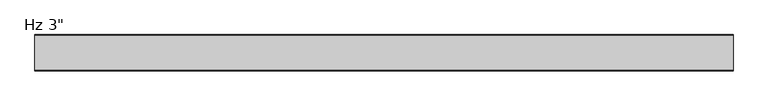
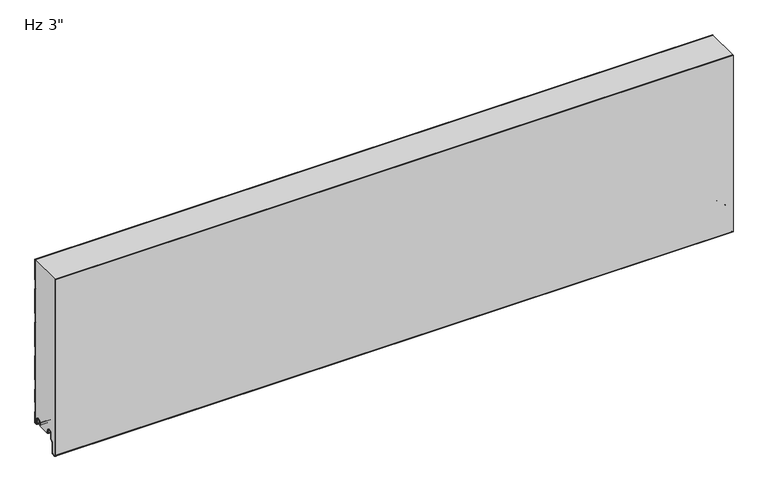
"""IFC4 building model written with IfcOpenShell, lengths in millimetres: plate geometry."""

from ifc_helpers import new_model, si_unit, point, frame, frame_2d, origin, place, context, project, spatial, polyline, circle_curve, trimmed, segment, composite_curve, outline, extrude, source, transform, mapped, element, save
from ifc_brep_helpers import plane_surface, cylinder_surface, revolved_surface, advanced_brep


def plate_a8b72244(model_context):
    return source(origin(), model_context, "Body", "SolidModel", [
        extrude(outline(composite_curve([segment(trimmed(circle_curve(frame_2d((-72.6297607, -32.4521176)), 3.5702393), [point((-72.3184903, -36.008762))], [point((-76.2, -32.4521154))], False, "CARTESIAN"), True, "CONTINUOUS"), segment(polyline([(-76.2, -32.4521154), (-76.1997439, 368.0), (-75.1993606, 368.0), (-75.1993606, -32.509446)]), True, "CONTINUOUS"), segment(trimmed(circle_curve(frame_2d((-72.6297607, -32.4521176)), 2.5702393), [point((-75.1993606, -32.509446))], [point((-72.4056751, -35.0125699))], True, "CARTESIAN"), True, "CONTINUOUS"), segment(polyline([(-72.4056751, -35.0125699), (-67.4238542, -34.5765709)]), True, "CONTINUOUS"), segment(trimmed(circle_curve(frame_2d((-67.9052448, -31.9198392)), 2.6999926), [point((-67.4238542, -34.5765709))], [point((-65.2052522, -31.9198392))], True, "CARTESIAN"), True, "CONTINUOUS"), segment(polyline([(-65.2052522, -31.9198392), (-65.2052522, -9.8247096), (-59.7031811, -4.3226385)]), True, "CONTINUOUS"), segment(trimmed(circle_curve(frame_2d((-60.9052588, -3.1205608)), 1.6999946), [point((-59.7031811, -4.3226385))], [point((-59.2052642, -3.1205608))], True, "CARTESIAN"), True, "CONTINUOUS"), segment(polyline([(-59.2052642, -3.1205608), (-59.2052642, 8.6903283)]), True, "CONTINUOUS"), segment(trimmed(circle_curve(frame_2d((-55.8552689, 8.6903283)), 3.3499953), [point((-59.2052642, 8.6903283))], [point((-55.8552689, 12.0403236))], False, "CARTESIAN"), True, "CONTINUOUS"), segment(polyline([(-55.8552689, 12.0403236), (-51.4552777, 12.0403236)]), True, "CONTINUOUS"), segment(trimmed(circle_curve(frame_2d((-51.4552777, 8.6903283)), 3.3499953), [point((-51.4552777, 12.0403236))], [point((-48.1052824, 8.6903283))], False, "CARTESIAN"), True, "CONTINUOUS"), segment(polyline([(-48.1052824, 8.6903283), (-48.1052824, 5.9912173), (-46.7068035, 5.9912173), (-46.7068035, 2.2328239)]), True, "CONTINUOUS"), segment(trimmed(circle_curve(frame_2d((-47.9068002, 2.2313092)), 1.1999976), [point((-46.7068035, 2.2328239))], [point((-47.8762782, 1.0316999))], False, "CARTESIAN"), True, "CONTINUOUS"), segment(trimmed(circle_curve(frame_2d((-47.9068002, 2.2313092)), 1.1999976), [point((-47.8762782, 1.0316999))], [point((-49.1052824, 2.1710221))], False, "CARTESIAN"), True, "CONTINUOUS"), segment(polyline([(-49.1052824, 2.1710221), (-49.1052824, 8.6903283)]), True, "CONTINUOUS"), segment(trimmed(circle_curve(frame_2d((-51.4552777, 8.6903283)), 2.3499953), [point((-49.1052824, 8.6903283))], [point((-51.4552777, 11.0403236))], True, "CARTESIAN"), True, "CONTINUOUS"), segment(polyline([(-51.4552777, 11.0403236), (-55.8552689, 11.0403236)]), True, "CONTINUOUS"), segment(trimmed(circle_curve(frame_2d((-55.8552689, 8.6903283)), 2.3499953), [point((-55.8552689, 11.0403236))], [point((-58.2052642, 8.6903283))], True, "CARTESIAN"), True, "CONTINUOUS"), segment(polyline([(-58.2052642, 8.6903283), (-58.2052642, -3.1205608)]), True, "CONTINUOUS"), segment(trimmed(circle_curve(frame_2d((-60.9052588, -3.1205608)), 2.6999946), [point((-58.2052642, -3.1205608))], [point((-58.9960743, -5.0297453))], False, "CARTESIAN"), True, "CONTINUOUS"), segment(polyline([(-58.9960743, -5.0297453), (-63.8244918, -9.8581627)]), True, "CONTINUOUS"), segment(trimmed(circle_curve(frame_2d((-62.9052548, -10.7773997)), 1.2999974), [point((-63.8244918, -9.8581627))], [point((-64.2052522, -10.7773997))], True, "CARTESIAN"), True, "CONTINUOUS"), segment(polyline([(-64.2052522, -10.7773997), (-64.2052522, -31.9198392)]), True, "CONTINUOUS"), segment(trimmed(circle_curve(frame_2d((-67.9052448, -31.9198392)), 3.6999926), [point((-64.2052522, -31.9198392))], [point((-67.2944437, -35.5690675))], False, "CARTESIAN"), True, "CONTINUOUS"), segment(polyline([(-67.2944437, -35.5690675), (-72.3184903, -36.008762)]), True, "CONTINUOUS")], self_intersect=False)), frame((-730.0, 0.0, 0.0), z_axis=(1.0, 0.0, 0.0), x_axis=(0.0, 1.0, 0.0)), (0.0, 0.0, 1.0), 1460.0),
        advanced_brep(
        [(-730.0, -17.0015159, 2.0313088), (-730.0, -18.0015191, 1.0313115), (-730.0, -19.0015105, 2.0313088), (-730.0, -19.0015105, 6.0315124), (-730.0, -18.0015159, 6.0315124), (-730.0, -18.0015159, 8.7237222), (-730.0, -14.7015202, 12.0237179), (-730.0, -10.301529, 12.0237179), (-730.0, -7.0015335, 8.7237224), (-730.0, -7.0015335, -1.6962565), (-730.0, -5.2315393, -3.4662507), (-730.0, -0.9999916, -3.4662507), (-730.0, -0.9999916, 21.034026), (-730.0, -2.2002307, 22.4196686), (-730.0, -2.2002307, 41.7948349), (-730.0, -1.0, 43.1804678), (-730.0, -1.0, 71.8338832), (-730.0, -2.2002307, 73.2195162), (-730.0, -2.2002307, 92.5946825), (-730.0, -1.0, 93.9803154), (-730.0, -1.0, 148.0337308), (-730.0, -2.2002307, 149.4193638), (-730.0, -2.2002307, 168.7945301), (-730.0, -1.0, 170.180163), (-730.0, -1.0, 224.2335784), (-730.0, -2.2002307, 225.6192114), (-730.0, -2.2002307, 244.9943777), (-730.0, -1.0, 246.3800106), (-730.0, -1.0, 300.433426), (-730.0, -2.2002307, 301.819059), (-730.0, -2.2002307, 321.1942253), (-730.0, -1.0, 322.5798582), (-730.0, -1.0, 368.0), (-730.0, 0.0, 368.0), (-730.0, 0.0, 322.7290094), (-730.0, -0.3417885, 321.8123925), (-730.0, -1.2002307, 320.8213449), (-730.0, -1.2002307, 302.1919394), (-730.0, -0.3417885, 301.2008918), (-730.0, 0.0, 300.2842749), (-730.0, 0.0, 246.5291618), (-730.0, -0.3417885, 245.6125449), (-730.0, -1.2002307, 244.6214973), (-730.0, -1.2002307, 225.9920918), (-730.0, -0.3417885, 225.0010442), (-730.0, 0.0, 224.0844273), (-730.0, 0.0, 170.3293142), (-730.0, -0.3417885, 169.4126973), (-730.0, -1.2002307, 168.4216497), (-730.0, -1.2002307, 149.7922442), (-730.0, -0.3417885, 148.8011966), (-730.0, 0.0, 147.8845797), (-730.0, 0.0, 94.1294666), (-730.0, -0.3417885, 93.2128497), (-730.0, -1.2002307, 92.2218021), (-730.0, -1.2002307, 73.5923966), (-730.0, -0.3417885, 72.601349), (-730.0, 0.0, 71.6847321), (-730.0, 0.0, 43.329619), (-730.0, -0.3417885, 42.4130021), (-730.0, -1.2002307, 41.4219545), (-730.0, -1.2002307, 22.792549), (-730.0, -0.3417885, 21.8015014), (-730.0, 0.0, 20.8847931), (-730.0, 8.4e-06, -3.0662545), (-730.0, -1.3999878, -4.4662507), (-730.0, -5.2315393, -4.4662507), (-730.0, -8.0015335, -1.6962565), (-730.0, -8.0015335, 8.7237224), (-730.0, -10.301529, 11.0237179), (-730.0, -14.7015202, 11.0237179), (-730.0, -17.0015159, 8.7237222), (730.0, -17.0015159, 2.0313088), (730.0, -17.0015159, 8.7237222), (730.0, -14.7015202, 11.0237179), (730.0, -10.301529, 11.0237179), (730.0, -8.0015335, 8.7237224), (730.0, -8.0015335, -1.6962565), (730.0, -5.2315393, -4.4662507), (730.0, -1.3999878, -4.4662507), (730.0, 8.4e-06, -3.0662545), (730.0, 8.4e-06, 20.8848845), (730.0, -0.3417885, 21.8015014), (730.0, -1.2002307, 22.792549), (730.0, -1.2002307, 41.4219545), (730.0, -0.3417885, 42.4130021), (730.0, 0.0, 43.329619), (730.0, 0.0, 71.6847321), (730.0, -0.3417885, 72.601349), (730.0, -1.2002307, 73.5923966), (730.0, -1.2002307, 92.2218021), (730.0, -0.3417885, 93.2128497), (730.0, 0.0, 94.1294666), (730.0, 0.0, 147.8845797), (730.0, -0.3417885, 148.8011966), (730.0, -1.2002307, 149.7922442), (730.0, -1.2002307, 168.4216497), (730.0, -0.3417885, 169.4126973), (730.0, 0.0, 170.3293142), (730.0, 0.0, 224.0844273), (730.0, -0.3417885, 225.0010442), (730.0, -1.2002307, 225.9920918), (730.0, -1.2002307, 244.6214973), (730.0, -0.3417885, 245.6125449), (730.0, 0.0, 246.5291618), (730.0, 0.0, 300.2842749), (730.0, -0.3417885, 301.2008918), (730.0, -1.2002307, 302.1919394), (730.0, -1.2002307, 320.8213449), (730.0, -0.3417885, 321.8123925), (730.0, 0.0, 322.7290094), (730.0, 0.0, 368.0), (730.0, -1.0, 368.0), (730.0, -1.0, 322.5798582), (730.0, -2.2002307, 321.1942253), (730.0, -2.2002307, 301.819059), (730.0, -1.0, 300.433426), (730.0, -1.0, 246.3800106), (730.0, -2.2002307, 244.9943777), (730.0, -2.2002307, 225.6192114), (730.0, -1.0, 224.2335784), (730.0, -1.0, 170.180163), (730.0, -2.2002307, 168.7945301), (730.0, -2.2002307, 149.4193638), (730.0, -1.0, 148.0337308), (730.0, -1.0, 93.9803154), (730.0, -2.2002307, 92.5946825), (730.0, -2.2002307, 73.2195162), (730.0, -1.0, 71.8338832), (730.0, -1.0, 43.1804678), (730.0, -2.2002307, 41.7948349), (730.0, -2.2002307, 22.4196686), (730.0, -0.9999916, 21.034026), (730.0, -0.9999916, -3.4662507), (730.0, -5.2315393, -3.4662507), (730.0, -7.0015335, -1.6962565), (730.0, -7.0015335, 8.7237224), (730.0, -10.301529, 12.0237179), (730.0, -14.7015202, 12.0237179), (730.0, -18.0015159, 8.7237222), (730.0, -18.0015159, 6.0315124), (730.0, -19.0015105, 6.0315124), (730.0, -19.0015105, 2.0313088), (730.0, -18.0015192, 1.0313116)],
        [
            (0, 1, circle_curve(frame((-730.0, -18.0015132, 2.0313088), z_axis=(-1.0, 0.0, 0.0), x_axis=(0.0, 0.0, 1.0)), 0.9999973)),
            (1, 2, circle_curve(frame((-730.0, -18.0015133, 2.0313088), z_axis=(-1.0, 0.0, 0.0), x_axis=(0.0, 0.0, 1.0)), 0.9999972)),
            (2, 3),
            (3, 4),
            (4, 5),
            (5, 6, circle_curve(frame((-730.0, -14.7015202, 8.7237222), z_axis=(-1.0, 0.0, 0.0), x_axis=(0.0, 0.0, 1.0)), 3.2999957)),
            (6, 7),
            (7, 8, circle_curve(frame((-730.0, -10.301529, 8.7237224), z_axis=(-1.0, 0.0, 0.0), x_axis=(0.0, 0.0, 1.0)), 3.2999955)),
            (8, 9),
            (9, 10, circle_curve(frame((-730.0, -5.2315393, -1.6962565), z_axis=(1.0, 0.0, 0.0), x_axis=(0.0, 0.0, 1.0)), 1.7699942)),
            (10, 11),
            (11, 12),
            (12, 13),
            (13, 14),
            (14, 15),
            (15, 16),
            (16, 17),
            (17, 18),
            (18, 19),
            (19, 20),
            (20, 21),
            (21, 22),
            (22, 23),
            (23, 24),
            (24, 25),
            (25, 26),
            (26, 27),
            (27, 28),
            (28, 29),
            (29, 30),
            (30, 31),
            (31, 32),
            (32, 33),
            (33, 34),
            (34, 35, circle_curve(frame((-730.0, -1.3999972, 322.7290094), z_axis=(-1.0, 0.0, 0.0), x_axis=(0.0, 0.0, 1.0)), 1.3999972)),
            (35, 36),
            (36, 37),
            (37, 38),
            (38, 39, circle_curve(frame((-730.0, -1.3999972, 300.2842749), z_axis=(-1.0, 0.0, 0.0), x_axis=(0.0, 0.0, 1.0)), 1.3999972)),
            (39, 40),
            (40, 41, circle_curve(frame((-730.0, -1.3999972, 246.5291618), z_axis=(-1.0, 0.0, 0.0), x_axis=(0.0, 0.0, 1.0)), 1.3999972)),
            (41, 42),
            (42, 43),
            (43, 44),
            (44, 45, circle_curve(frame((-730.0, -1.3999972, 224.0844273), z_axis=(-1.0, 0.0, 0.0), x_axis=(0.0, 0.0, 1.0)), 1.3999972)),
            (45, 46),
            (46, 47, circle_curve(frame((-730.0, -1.3999972, 170.3293142), z_axis=(-1.0, 0.0, 0.0), x_axis=(0.0, 0.0, 1.0)), 1.3999972)),
            (47, 48),
            (48, 49),
            (49, 50),
            (50, 51, circle_curve(frame((-730.0, -1.3999972, 147.8845797), z_axis=(-1.0, 0.0, 0.0), x_axis=(0.0, 0.0, 1.0)), 1.3999972)),
            (51, 52),
            (52, 53, circle_curve(frame((-730.0, -1.3999972, 94.1294666), z_axis=(-1.0, 0.0, 0.0), x_axis=(0.0, 0.0, 1.0)), 1.3999972)),
            (53, 54),
            (54, 55),
            (55, 56),
            (56, 57, circle_curve(frame((-730.0, -1.3999972, 71.6847321), z_axis=(-1.0, 0.0, 0.0), x_axis=(0.0, 0.0, 1.0)), 1.3999972)),
            (57, 58),
            (58, 59, circle_curve(frame((-730.0, -1.3999972, 43.329619), z_axis=(-1.0, 0.0, 0.0), x_axis=(0.0, 0.0, 1.0)), 1.3999972)),
            (59, 60),
            (60, 61),
            (61, 62),
            (62, 63, circle_curve(frame((-730.0, -1.3999972, 20.8848845), z_axis=(-1.0, 0.0, 0.0), x_axis=(0.0, 0.0, 1.0)), 1.3999972)),
            (63, 64),
            (64, 65, circle_curve(frame((-730.0, -1.3999878, -3.0662545), z_axis=(-1.0, 0.0, 0.0), x_axis=(0.0, 0.0, 1.0)), 1.3999962)),
            (65, 66),
            (66, 67, circle_curve(frame((-730.0, -5.2315393, -1.6962565), z_axis=(-1.0, 0.0, 0.0), x_axis=(0.0, 0.0, 1.0)), 2.7699942)),
            (67, 68),
            (68, 69, circle_curve(frame((-730.0, -10.301529, 8.7237224), z_axis=(1.0, 0.0, 0.0), x_axis=(0.0, 0.0, 1.0)), 2.2999955)),
            (69, 70),
            (70, 71, circle_curve(frame((-730.0, -14.7015202, 8.7237222), z_axis=(1.0, 0.0, 0.0), x_axis=(0.0, 0.0, 1.0)), 2.2999957)),
            (71, 0),
            (72, 73),
            (73, 74, circle_curve(frame((730.0, -14.7015202, 8.7237222), z_axis=(-1.0, 0.0, 0.0), x_axis=(0.0, 0.0, 1.0)), 2.2999957)),
            (74, 75),
            (75, 76, circle_curve(frame((730.0, -10.301529, 8.7237224), z_axis=(-1.0, 0.0, 0.0), x_axis=(0.0, 0.0, 1.0)), 2.2999955)),
            (76, 77),
            (77, 78, circle_curve(frame((730.0, -5.2315393, -1.6962565), z_axis=(1.0, 0.0, 0.0), x_axis=(0.0, 0.0, 1.0)), 2.7699942)),
            (78, 79),
            (79, 80, circle_curve(frame((730.0, -1.3999878, -3.0662545), z_axis=(1.0, 0.0, 0.0), x_axis=(0.0, 0.0, 1.0)), 1.3999962)),
            (80, 81),
            (81, 82, circle_curve(frame((730.0, -1.3999972, 20.8848845), z_axis=(1.0, 0.0, 0.0), x_axis=(0.0, 0.0, 1.0)), 1.3999972)),
            (82, 83),
            (83, 84),
            (84, 85),
            (85, 86, circle_curve(frame((730.0, -1.3999972, 43.329619), z_axis=(1.0, 0.0, 0.0), x_axis=(0.0, 0.0, 1.0)), 1.3999972)),
            (86, 87),
            (87, 88, circle_curve(frame((730.0, -1.3999972, 71.6847321), z_axis=(1.0, 0.0, 0.0), x_axis=(0.0, 0.0, 1.0)), 1.3999972)),
            (88, 89),
            (89, 90),
            (90, 91),
            (91, 92, circle_curve(frame((730.0, -1.3999972, 94.1294666), z_axis=(1.0, 0.0, 0.0), x_axis=(0.0, 0.0, 1.0)), 1.3999972)),
            (92, 93),
            (93, 94, circle_curve(frame((730.0, -1.3999972, 147.8845797), z_axis=(1.0, 0.0, 0.0), x_axis=(0.0, 0.0, 1.0)), 1.3999972)),
            (94, 95),
            (95, 96),
            (96, 97),
            (97, 98, circle_curve(frame((730.0, -1.3999972, 170.3293142), z_axis=(1.0, 0.0, 0.0), x_axis=(0.0, 0.0, 1.0)), 1.3999972)),
            (98, 99),
            (99, 100, circle_curve(frame((730.0, -1.3999972, 224.0844273), z_axis=(1.0, 0.0, 0.0), x_axis=(0.0, 0.0, 1.0)), 1.3999972)),
            (100, 101),
            (101, 102),
            (102, 103),
            (103, 104, circle_curve(frame((730.0, -1.3999972, 246.5291618), z_axis=(1.0, 0.0, 0.0), x_axis=(0.0, 0.0, 1.0)), 1.3999972)),
            (104, 105),
            (105, 106, circle_curve(frame((730.0, -1.3999972, 300.2842749), z_axis=(1.0, 0.0, 0.0), x_axis=(0.0, 0.0, 1.0)), 1.3999972)),
            (106, 107),
            (107, 108),
            (108, 109),
            (109, 110, circle_curve(frame((730.0, -1.3999972, 322.7290094), z_axis=(1.0, 0.0, 0.0), x_axis=(0.0, 0.0, 1.0)), 1.3999972)),
            (110, 111),
            (111, 112),
            (112, 113),
            (113, 114),
            (114, 115),
            (115, 116),
            (116, 117),
            (117, 118),
            (118, 119),
            (119, 120),
            (120, 121),
            (121, 122),
            (122, 123),
            (123, 124),
            (124, 125),
            (125, 126),
            (126, 127),
            (127, 128),
            (128, 129),
            (129, 130),
            (130, 131),
            (131, 132),
            (132, 133),
            (133, 134),
            (134, 135, circle_curve(frame((730.0, -5.2315393, -1.6962565), z_axis=(-1.0, 0.0, 0.0), x_axis=(0.0, 0.0, 1.0)), 1.7699942)),
            (135, 136),
            (136, 137, circle_curve(frame((730.0, -10.301529, 8.7237224), z_axis=(1.0, 0.0, 0.0), x_axis=(0.0, 0.0, 1.0)), 3.2999955)),
            (137, 138),
            (138, 139, circle_curve(frame((730.0, -14.7015202, 8.7237222), z_axis=(1.0, 0.0, 0.0), x_axis=(0.0, 0.0, 1.0)), 3.2999957)),
            (139, 140),
            (140, 141),
            (141, 142),
            (142, 143, circle_curve(frame((730.0, -18.0015133, 2.0313088), z_axis=(1.0, 0.0, 0.0), x_axis=(0.0, 0.0, 1.0)), 0.9999972)),
            (143, 72, circle_curve(frame((730.0, -18.0015132, 2.0313088), z_axis=(1.0, 0.0, 0.0), x_axis=(0.0, 0.0, 1.0)), 0.9999973)),
            (32, 112),
            (111, 33),
            (67, 77),
            (76, 68),
            (0, 72),
            (143, 1),
            (71, 73),
            (70, 74),
            (75, 69),
            (65, 79),
            (78, 66),
            (64, 80),
            (63, 81),
            (2, 142),
            (141, 3),
            (56, 88),
            (87, 57),
            (61, 83),
            (82, 62),
            (60, 84),
            (58, 86),
            (85, 59),
            (50, 94),
            (93, 51),
            (54, 90),
            (89, 55),
            (52, 92),
            (91, 53),
            (44, 100),
            (99, 45),
            (48, 96),
            (95, 49),
            (46, 98),
            (97, 47),
            (38, 106),
            (105, 39),
            (42, 102),
            (101, 43),
            (40, 104),
            (103, 41),
            (36, 108),
            (107, 37),
            (34, 110),
            (109, 35),
            (27, 117),
            (116, 28),
            (115, 29),
            (114, 30),
            (113, 31),
            (26, 118),
            (25, 119),
            (24, 120),
            (23, 121),
            (22, 122),
            (21, 123),
            (20, 124),
            (19, 125),
            (18, 126),
            (17, 127),
            (16, 128),
            (15, 129),
            (14, 130),
            (140, 4),
            (139, 5),
            (138, 6),
            (137, 7),
            (136, 8),
            (135, 9),
            (12, 132),
            (131, 13),
            (11, 133),
            (10, 134),
        ],
        [
            plane_surface(frame((-730.0, 0.0, 508.0), z_axis=(-1.0, 0.0, 0.0), x_axis=(0.0, 1.0, 0.0))),
            plane_surface(frame((730.0, 0.0, 508.0), z_axis=(1.0, 0.0, 0.0), x_axis=(0.0, 1.0, 0.0))),
            plane_surface(frame((730.0, 10.0, 368.0), z_axis=(0.0, 0.0, 1.0), x_axis=(-1.0, 0.0, 0.0))),
            plane_surface(frame((-730.0, -8.0015335, 8.7237224), z_axis=(0.0, -1.0, 0.0), x_axis=(1.0, 0.0, 0.0))),
            cylinder_surface(frame((-730.0, -18.0015132, 2.0313088), z_axis=(-1.0, 0.0, 0.0), x_axis=(0.0, 0.0, 1.0)), 0.9999973),
            plane_surface(frame((-730.0, -17.0015159, 2.0313088), z_axis=(0.0, 1.0, 0.0), x_axis=(1.0, 0.0, 0.0))),
            revolved_surface(polyline([(730.0, -14.7015202, 11.0237179), (-730.0, -14.7015202, 11.0237179)]), (-730.0, -14.7015202, 8.7237222), (1.0, 0.0, 0.0)),
            revolved_surface(polyline([(730.0, -10.301529, 11.0237179), (-730.0, -10.301529, 11.0237179)]), (-730.0, -10.301529, 8.7237224), (1.0, 0.0, 0.0)),
            plane_surface(frame((-730.0, -14.7015202, 11.0237179), z_axis=(0.0, 0.0, -1.0), x_axis=(1.0, 0.0, 0.0))),
            plane_surface(frame((-730.0, -5.2315393, -4.4662507), z_axis=(0.0, 0.0, -1.0), x_axis=(1.0, 0.0, 0.0))),
            cylinder_surface(frame((-730.0, -1.3999878, -3.0662545), z_axis=(-1.0, 0.0, 0.0), x_axis=(0.0, 0.0, 1.0)), 1.3999962),
            cylinder_surface(frame((-730.0, -5.2315393, -1.6962565), z_axis=(-1.0, 0.0, 0.0), x_axis=(0.0, 0.0, 1.0)), 2.7699942),
            plane_surface(frame((-730.0, 8.4e-06, -3.0662545), z_axis=(0.0, 1.0, 0.0), x_axis=(1.0, 0.0, 0.0))),
            plane_surface(frame((-730.0, -19.0015105, 6.0315124), z_axis=(0.0, -1.0, 0.0), x_axis=(1.0, 0.0, 0.0))),
            cylinder_surface(frame((-730.0, -18.0015133, 2.0313088), z_axis=(-1.0, 0.0, 0.0), x_axis=(0.0, 0.0, 1.0)), 0.9999972),
            cylinder_surface(frame((-730.0, -1.3999972, 71.6847321), z_axis=(-1.0, 0.0, 0.0), x_axis=(0.0, 0.0, 1.0)), 1.3999972),
            plane_surface(frame((-730.0, -0.3417885, 21.8015014), z_axis=(0.0, 0.755864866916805, 0.6547276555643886), x_axis=(1.0, 0.0, 0.0))),
            plane_surface(frame((-730.0, -1.2002307, 32.1072517), z_axis=(0.0, 1.0, 0.0), x_axis=(1.0, 0.0, 0.0))),
            cylinder_surface(frame((-730.0, -1.3999972, 20.8848845), z_axis=(-1.0, 0.0, 0.0), x_axis=(0.0, 0.0, 1.0)), 1.3999972),
            cylinder_surface(frame((-730.0, -1.3999972, 43.329619), z_axis=(-1.0, 0.0, 0.0), x_axis=(0.0, 0.0, 1.0)), 1.3999972),
            plane_surface(frame((-730.0, -1.2002307, 41.4219545), z_axis=(0.0, 0.755864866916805, -0.6547276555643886), x_axis=(1.0, 0.0, 0.0))),
            cylinder_surface(frame((-730.0, -1.3999972, 147.8845797), z_axis=(-1.0, 0.0, 0.0), x_axis=(0.0, 0.0, 1.0)), 1.3999972),
            plane_surface(frame((-730.0, -1.2002307, 82.9070993), z_axis=(0.0, 1.0, 0.0), x_axis=(1.0, 0.0, 0.0))),
            cylinder_surface(frame((-730.0, -1.3999972, 94.1294666), z_axis=(-1.0, 0.0, 0.0), x_axis=(0.0, 0.0, 1.0)), 1.3999972),
            plane_surface(frame((-730.0, -0.3417885, 72.601349), z_axis=(0.0, 0.755864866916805, 0.6547276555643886), x_axis=(1.0, 0.0, 0.0))),
            plane_surface(frame((-730.0, -1.2002307, 92.2218021), z_axis=(0.0, 0.755864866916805, -0.6547276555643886), x_axis=(1.0, 0.0, 0.0))),
            plane_surface(frame((-730.0, 0.0, 43.329619), z_axis=(0.0, 1.0, 0.0), x_axis=(1.0, 0.0, 0.0))),
            cylinder_surface(frame((-730.0, -1.3999972, 224.0844273), z_axis=(-1.0, 0.0, 0.0), x_axis=(0.0, 0.0, 1.0)), 1.3999972),
            plane_surface(frame((-730.0, -1.2002307, 159.1069469), z_axis=(0.0, 1.0, 0.0), x_axis=(1.0, 0.0, 0.0))),
            cylinder_surface(frame((-730.0, -1.3999972, 170.3293142), z_axis=(-1.0, 0.0, 0.0), x_axis=(0.0, 0.0, 1.0)), 1.3999972),
            plane_surface(frame((-730.0, -0.3417885, 148.8011966), z_axis=(0.0, 0.755864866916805, 0.6547276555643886), x_axis=(1.0, 0.0, 0.0))),
            plane_surface(frame((-730.0, -1.2002307, 168.4216497), z_axis=(0.0, 0.755864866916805, -0.6547276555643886), x_axis=(1.0, 0.0, 0.0))),
            plane_surface(frame((-730.0, 0.0, 94.1294666), z_axis=(0.0, 1.0, 0.0), x_axis=(1.0, 0.0, 0.0))),
            cylinder_surface(frame((-730.0, -1.3999972, 300.2842749), z_axis=(-1.0, 0.0, 0.0), x_axis=(0.0, 0.0, 1.0)), 1.3999972),
            plane_surface(frame((-730.0, -1.2002307, 235.3067945), z_axis=(0.0, 1.0, 0.0), x_axis=(1.0, 0.0, 0.0))),
            cylinder_surface(frame((-730.0, -1.3999972, 246.5291618), z_axis=(-1.0, 0.0, 0.0), x_axis=(0.0, 0.0, 1.0)), 1.3999972),
            plane_surface(frame((-730.0, -0.3417885, 225.0010442), z_axis=(0.0, 0.755864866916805, 0.6547276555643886), x_axis=(1.0, 0.0, 0.0))),
            plane_surface(frame((-730.0, -1.2002307, 244.6214973), z_axis=(0.0, 0.755864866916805, -0.6547276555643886), x_axis=(1.0, 0.0, 0.0))),
            plane_surface(frame((-730.0, 0.0, 170.3293142), z_axis=(0.0, 1.0, 0.0), x_axis=(1.0, 0.0, 0.0))),
            plane_surface(frame((-730.0, -1.2002307, 311.5066421), z_axis=(0.0, 1.0, 0.0), x_axis=(1.0, 0.0, 0.0))),
            cylinder_surface(frame((-730.0, -1.3999972, 322.7290094), z_axis=(-1.0, 0.0, 0.0), x_axis=(0.0, 0.0, 1.0)), 1.3999972),
            plane_surface(frame((-730.0, -0.3417885, 301.2008918), z_axis=(0.0, 0.755864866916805, 0.6547276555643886), x_axis=(1.0, 0.0, 0.0))),
            plane_surface(frame((-730.0, -1.2002307, 320.8213449), z_axis=(0.0, 0.755864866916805, -0.6547276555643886), x_axis=(1.0, 0.0, 0.0))),
            plane_surface(frame((-730.0, 0.0, 246.5291618), z_axis=(0.0, 1.0, 0.0), x_axis=(1.0, 0.0, 0.0))),
            plane_surface(frame((-730.0, 0.0, 322.7290094), z_axis=(0.0, 1.0, 0.0), x_axis=(1.0, 0.0, 0.0))),
            plane_surface(frame((-730.0, -1.0, 300.433426), z_axis=(0.0, -1.0, 0.0), x_axis=(1.0, 0.0, 0.0))),
            plane_surface(frame((-730.0, -2.2002307, 301.819059), z_axis=(0.0, -0.755864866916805, -0.6547276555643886), x_axis=(1.0, 0.0, 0.0))),
            plane_surface(frame((-730.0, -2.2002307, 321.1942253), z_axis=(0.0, -1.0, 0.0), x_axis=(1.0, 0.0, 0.0))),
            plane_surface(frame((-730.0, -1.0, 322.5798582), z_axis=(0.0, -0.755864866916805, 0.6547276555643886), x_axis=(1.0, 0.0, 0.0))),
            plane_surface(frame((-730.0, -1.0, 376.6332736), z_axis=(0.0, -1.0, 0.0), x_axis=(1.0, 0.0, 0.0))),
            plane_surface(frame((-730.0, -1.0, 246.3800106), z_axis=(0.0, -0.755864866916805, 0.6547276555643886), x_axis=(1.0, 0.0, 0.0))),
            plane_surface(frame((-730.0, -2.2002307, 244.9943777), z_axis=(0.0, -1.0, 0.0), x_axis=(1.0, 0.0, 0.0))),
            plane_surface(frame((-730.0, -2.2002307, 225.6192114), z_axis=(0.0, -0.755864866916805, -0.6547276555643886), x_axis=(1.0, 0.0, 0.0))),
            plane_surface(frame((-730.0, -1.0, 224.2335784), z_axis=(0.0, -1.0, 0.0), x_axis=(1.0, 0.0, 0.0))),
            plane_surface(frame((-730.0, -1.0, 170.180163), z_axis=(0.0, -0.755864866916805, 0.6547276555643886), x_axis=(1.0, 0.0, 0.0))),
            plane_surface(frame((-730.0, -2.2002307, 168.7945301), z_axis=(0.0, -1.0, 0.0), x_axis=(1.0, 0.0, 0.0))),
            plane_surface(frame((-730.0, -2.2002307, 149.4193638), z_axis=(0.0, -0.755864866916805, -0.6547276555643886), x_axis=(1.0, 0.0, 0.0))),
            plane_surface(frame((-730.0, -1.0, 148.0337308), z_axis=(0.0, -1.0, 0.0), x_axis=(1.0, 0.0, 0.0))),
            plane_surface(frame((-730.0, -1.0, 93.9803154), z_axis=(0.0, -0.755864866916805, 0.6547276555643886), x_axis=(1.0, 0.0, 0.0))),
            plane_surface(frame((-730.0, -2.2002307, 92.5946825), z_axis=(0.0, -1.0, 0.0), x_axis=(1.0, 0.0, 0.0))),
            plane_surface(frame((-730.0, -2.2002307, 73.2195162), z_axis=(0.0, -0.755864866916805, -0.6547276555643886), x_axis=(1.0, 0.0, 0.0))),
            plane_surface(frame((-730.0, -1.0, 71.8338832), z_axis=(0.0, -1.0, 0.0), x_axis=(1.0, 0.0, 0.0))),
            plane_surface(frame((-730.0, -1.0, 43.1804678), z_axis=(0.0, -0.755864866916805, 0.6547276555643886), x_axis=(1.0, 0.0, 0.0))),
            plane_surface(frame((-730.0, -18.0015159, 6.0315124), z_axis=(0.0, 0.0, 1.0), x_axis=(1.0, 0.0, 0.0))),
            plane_surface(frame((-730.0, -18.0015159, 8.7237222), z_axis=(0.0, -1.0, 0.0), x_axis=(1.0, 0.0, 0.0))),
            cylinder_surface(frame((-730.0, -14.7015202, 8.7237222), z_axis=(-1.0, 0.0, 0.0), x_axis=(0.0, 0.0, 1.0)), 3.2999957),
            plane_surface(frame((-730.0, -10.301529, 12.0237179), z_axis=(0.0, 0.0, 1.0), x_axis=(1.0, 0.0, 0.0))),
            cylinder_surface(frame((-730.0, -10.301529, 8.7237224), z_axis=(-1.0, 0.0, 0.0), x_axis=(0.0, 0.0, 1.0)), 3.2999955),
            plane_surface(frame((-730.0, -7.0015335, -1.6962565), z_axis=(0.0, 1.0, 0.0), x_axis=(1.0, 0.0, 0.0))),
            plane_surface(frame((-730.0, -2.2002307, 22.4196686), z_axis=(0.0, -0.755864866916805, -0.6547276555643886), x_axis=(1.0, 0.0, 0.0))),
            plane_surface(frame((-730.0, -2.2002307, 41.7948349), z_axis=(0.0, -1.0, 0.0), x_axis=(1.0, 0.0, 0.0))),
            plane_surface(frame((-730.0, -0.9999916, 21.034026), z_axis=(0.0, -1.0, 0.0), x_axis=(1.0, 0.0, 0.0))),
            plane_surface(frame((-730.0, -0.9999916, -3.4662507), z_axis=(0.0, 0.0, 1.0), x_axis=(1.0, 0.0, 0.0))),
            revolved_surface(polyline([(730.0, -5.2315393, 0.0737376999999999), (-730.0, -5.2315393, 0.0737376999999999)]), (-730.0, -5.2315393, -1.6962565), (1.0, 0.0, 0.0)),
        ],
        [
            (0, [[1, 2, 3, 4, 5, 6, 7, 8, 9, 10, 11, 12, 13, 14, 15, 16, 17, 18, 19, 20, 21, 22, 23, 24, 25, 26, 27, 28, 29, 30, 31, 32, 33, 34, 35, 36, 37, 38, 39, 40, 41, 42, 43, 44, 45, 46, 47, 48, 49, 50, 51, 52, 53, 54, 55, 56, 57, 58, 59, 60, 61, 62, 63, 64, 65, 66, 67, 68, 69, 70, 71, 72]]),
            (1, [[73, 74, 75, 76, 77, 78, 79, 80, 81, 82, 83, 84, 85, 86, 87, 88, 89, 90, 91, 92, 93, 94, 95, 96, 97, 98, 99, 100, 101, 102, 103, 104, 105, 106, 107, 108, 109, 110, 111, 112, 113, 114, 115, 116, 117, 118, 119, 120, 121, 122, 123, 124, 125, 126, 127, 128, 129, 130, 131, 132, 133, 134, 135, 136, 137, 138, 139, 140, 141, 142, 143, 144]]),
            (2, [[145, -112, 146, -33]]),
            (3, [[147, -77, 148, -68]]),
            (4, [[149, -144, 150, -1]]),
            (5, [[151, -73, -149, -72]]),
            (6, [[152, -74, -151, -71]]),
            (7, [[-148, -76, 153, -69]]),
            (8, [[-153, -75, -152, -70]]),
            (9, [[154, -79, 155, -66]]),
            (10, [[156, -80, -154, -65]]),
            (11, [[-155, -78, -147, -67]]),
            (12, [[157, -81, -156, -64]]),
            (13, [[158, -142, 159, -3]]),
            (14, [[-150, -143, -158, -2]]),
            (15, [[160, -88, 161, -57]]),
            (16, [[162, -83, 163, -62]]),
            (17, [[164, -84, -162, -61]]),
            (18, [[-163, -82, -157, -63]]),
            (19, [[165, -86, 166, -59]]),
            (20, [[-166, -85, -164, -60]]),
            (21, [[167, -94, 168, -51]]),
            (22, [[169, -90, 170, -55]]),
            (23, [[171, -92, 172, -53]]),
            (24, [[-170, -89, -160, -56]]),
            (25, [[-172, -91, -169, -54]]),
            (26, [[-161, -87, -165, -58]]),
            (27, [[173, -100, 174, -45]]),
            (28, [[175, -96, 176, -49]]),
            (29, [[177, -98, 178, -47]]),
            (30, [[-176, -95, -167, -50]]),
            (31, [[-178, -97, -175, -48]]),
            (32, [[-168, -93, -171, -52]]),
            (33, [[179, -106, 180, -39]]),
            (34, [[181, -102, 182, -43]]),
            (35, [[183, -104, 184, -41]]),
            (36, [[-182, -101, -173, -44]]),
            (37, [[-184, -103, -181, -42]]),
            (38, [[-174, -99, -177, -46]]),
            (39, [[185, -108, 186, -37]]),
            (40, [[187, -110, 188, -35]]),
            (41, [[-186, -107, -179, -38]]),
            (42, [[-188, -109, -185, -36]]),
            (43, [[-180, -105, -183, -40]]),
            (44, [[-34, -146, -111, -187]]),
            (45, [[189, -117, 190, -28]]),
            (46, [[-190, -116, 191, -29]]),
            (47, [[-191, -115, 192, -30]]),
            (48, [[-192, -114, 193, -31]]),
            (49, [[-113, -145, -32, -193]]),
            (50, [[194, -118, -189, -27]]),
            (51, [[195, -119, -194, -26]]),
            (52, [[196, -120, -195, -25]]),
            (53, [[197, -121, -196, -24]]),
            (54, [[198, -122, -197, -23]]),
            (55, [[199, -123, -198, -22]]),
            (56, [[200, -124, -199, -21]]),
            (57, [[201, -125, -200, -20]]),
            (58, [[202, -126, -201, -19]]),
            (59, [[203, -127, -202, -18]]),
            (60, [[204, -128, -203, -17]]),
            (61, [[205, -129, -204, -16]]),
            (62, [[206, -130, -205, -15]]),
            (63, [[-159, -141, 207, -4]]),
            (64, [[-207, -140, 208, -5]]),
            (65, [[-208, -139, 209, -6]]),
            (66, [[-209, -138, 210, -7]]),
            (67, [[-210, -137, 211, -8]]),
            (68, [[-211, -136, 212, -9]]),
            (69, [[213, -132, 214, -13]]),
            (70, [[-214, -131, -206, -14]]),
            (71, [[215, -133, -213, -12]]),
            (72, [[216, -134, -215, -11]]),
            (73, [[-212, -135, -216, -10]]),
        ],
    ),
        advanced_brep(
        [(-730.0, -47.870875, 1.0316999), (-730.0, -46.7014003, 2.2328239), (-730.0, -46.7014003, 5.9912173), (-730.0, -48.0998791, 5.9912173), (-730.0, -48.0998791, 8.6903283), (-730.0, -51.4498744, 12.0403236), (-730.0, -55.8498656, 12.0403236), (-730.0, -59.1998609, 8.6903283), (-730.0, -59.1998609, -3.1205608), (-730.0, -59.6977778, -4.3226385), (-730.0, -65.1998489, -9.8247096), (-730.0, -65.1998489, -31.9198392), (-730.0, -67.4184509, -34.5765709), (-730.0, -72.4002718, -35.0125699), (-730.0, -75.1945967, -32.4521176), (-730.0, -75.2, 368.0), (-730.0, -1.0, 368.0), (-730.0, -1.0, 322.5798583), (-730.0, -2.2002307, 321.1942253), (-730.0, -2.2002307, 301.819059), (-730.0, -1.0, 300.4334261), (-730.0, -1.0, 246.3800107), (-730.0, -2.2002307, 244.9943777), (-730.0, -2.2002307, 225.6192114), (-730.0, -1.0, 224.2335785), (-730.0, -1.0, 170.1801631), (-730.0, -2.2002307, 168.7945301), (-730.0, -2.2002307, 149.4193638), (-730.0, -1.0, 148.0337309), (-730.0, -1.0, 93.9803155), (-730.0, -2.2002307, 92.5946825), (-730.0, -2.2002307, 73.2195162), (-730.0, -1.0, 71.8338833), (-730.0, -1.0, 43.1804679), (-730.0, -2.2002307, 41.7948349), (-730.0, -2.2002307, 22.4196686), (-730.0, -0.9999916, 21.034026), (-730.0, -0.9999916, -3.4662506), (-730.0, -5.2315389, -3.4662506), (-730.0, -7.0015331, -1.6962564), (-730.0, -7.0015331, 8.7237221), (-730.0, -10.301529, 12.023718), (-730.0, -14.7015202, 12.023718), (-730.0, -18.0015159, 8.7237223), (-730.0, -18.0015159, 6.0315125), (-730.0, -19.0015105, 6.0315125), (-730.0, -19.0015105, 2.0313088), (-730.0, -18.0015192, 1.0313116), (-730.0, -19.0328308, 0.0), (-730.0, -46.8391751, 0.0), (730.0, -47.870875, 1.0316999), (730.0, -46.8391751, 0.0), (730.0, -19.0328308, 0.0), (730.0, -18.0015192, 1.0313116), (730.0, -19.0015105, 2.0313088), (730.0, -19.0015105, 6.0315125), (730.0, -18.0015159, 6.0315125), (730.0, -18.0015159, 8.7237223), (730.0, -14.7015202, 12.023718), (730.0, -10.301529, 12.023718), (730.0, -7.0015331, 8.7237221), (730.0, -7.0015331, -1.6962564), (730.0, -5.2315389, -3.4662506), (730.0, -0.9999916, -3.4662506), (730.0, -0.9999916, 21.034026), (730.0, -2.2002307, 22.4196686), (730.0, -2.2002307, 41.7948349), (730.0, -1.0, 43.1804679), (730.0, -1.0, 71.8338833), (730.0, -2.2002307, 73.2195162), (730.0, -2.2002307, 92.5946825), (730.0, -1.0, 93.9803155), (730.0, -1.0, 148.0337309), (730.0, -2.2002307, 149.4193638), (730.0, -2.2002307, 168.7945301), (730.0, -1.0, 170.1801631), (730.0, -1.0, 224.2335785), (730.0, -2.2002307, 225.6192114), (730.0, -2.2002307, 244.9943777), (730.0, -1.0, 246.3800107), (730.0, -1.0, 300.4334261), (730.0, -2.2002307, 301.819059), (730.0, -2.2002307, 321.1942253), (730.0, -1.0, 322.5798583), (730.0, -1.0, 368.0), (730.0, -75.2, 368.0), (730.0, -75.2, -32.4521176), (730.0, -72.4002718, -35.0125699), (730.0, -67.4184509, -34.5765709), (730.0, -65.1998489, -31.9198392), (730.0, -65.1998489, -9.8247096), (730.0, -59.6977778, -4.3226385), (730.0, -59.1998609, -3.1205608), (730.0, -59.1998609, 8.6903283), (730.0, -55.8498656, 12.0403236), (730.0, -51.4498744, 12.0403236), (730.0, -48.0998791, 8.6903283), (730.0, -48.0998791, 5.9912173), (730.0, -46.7014003, 5.9912173), (730.0, -46.7014003, 2.2328239)],
        [
            (0, 1, circle_curve(frame((-730.0, -47.9013969, 2.2313092), z_axis=(1.0, 0.0, 0.0), x_axis=(0.0, 0.0, -1.0)), 1.1999976)),
            (1, 2),
            (2, 3),
            (3, 4),
            (4, 5, circle_curve(frame((-730.0, -51.4498744, 8.6903283), z_axis=(1.0, 0.0, 0.0), x_axis=(0.0, 0.0, -1.0)), 3.3499953)),
            (5, 6),
            (6, 7, circle_curve(frame((-730.0, -55.8498656, 8.6903283), z_axis=(1.0, 0.0, 0.0), x_axis=(0.0, 0.0, -1.0)), 3.3499953)),
            (7, 8),
            (8, 9, circle_curve(frame((-730.0, -60.8998555, -3.1205608), z_axis=(-1.0, 0.0, 0.0), x_axis=(0.0, 0.0, -1.0)), 1.6999946)),
            (9, 10),
            (10, 11),
            (11, 12, circle_curve(frame((-730.0, -67.8998415, -31.9198392), z_axis=(-1.0, 0.0, 0.0), x_axis=(0.0, 0.0, -1.0)), 2.6999926)),
            (12, 13),
            (13, 14, circle_curve(frame((-730.0, -72.6243575, -32.4521176), z_axis=(-1.0, 0.0, 0.0), x_axis=(0.0, 0.0, -1.0)), 2.5702393)),
            (14, 15),
            (15, 16),
            (16, 17),
            (17, 18),
            (18, 19),
            (19, 20),
            (20, 21),
            (21, 22),
            (22, 23),
            (23, 24),
            (24, 25),
            (25, 26),
            (26, 27),
            (27, 28),
            (28, 29),
            (29, 30),
            (30, 31),
            (31, 32),
            (32, 33),
            (33, 34),
            (34, 35),
            (35, 36),
            (36, 37),
            (37, 38),
            (38, 39, circle_curve(frame((-730.0, -5.2315389, -1.6962564), z_axis=(-1.0, 0.0, 0.0), x_axis=(0.0, 0.0, -1.0)), 1.7699942)),
            (39, 40),
            (40, 41, circle_curve(frame((-730.0, -10.301529, 8.7237221), z_axis=(1.0, 0.0, 0.0), x_axis=(0.0, 0.0, -1.0)), 3.2999959)),
            (41, 42),
            (42, 43, circle_curve(frame((-730.0, -14.7015202, 8.7237223), z_axis=(1.0, 0.0, 0.0), x_axis=(0.0, 0.0, -1.0)), 3.2999957)),
            (43, 44),
            (44, 45),
            (45, 46),
            (46, 47, circle_curve(frame((-730.0, -18.0015133, 2.0313088), z_axis=(1.0, 0.0, 0.0), x_axis=(0.0, 0.0, -1.0)), 0.9999972)),
            (47, 48),
            (48, 49),
            (49, 0),
            (50, 51),
            (51, 52),
            (52, 53),
            (53, 54, circle_curve(frame((730.0, -18.0015133, 2.0313088), z_axis=(-1.0, 0.0, 0.0), x_axis=(0.0, 0.0, -1.0)), 0.9999972)),
            (54, 55),
            (55, 56),
            (56, 57),
            (57, 58, circle_curve(frame((730.0, -14.7015202, 8.7237223), z_axis=(-1.0, 0.0, 0.0), x_axis=(0.0, 0.0, -1.0)), 3.2999957)),
            (58, 59),
            (59, 60, circle_curve(frame((730.0, -10.301529, 8.7237221), z_axis=(-1.0, 0.0, 0.0), x_axis=(0.0, 0.0, -1.0)), 3.2999959)),
            (60, 61),
            (61, 62, circle_curve(frame((730.0, -5.2315389, -1.6962564), z_axis=(1.0, 0.0, 0.0), x_axis=(0.0, 0.0, -1.0)), 1.7699942)),
            (62, 63),
            (63, 64),
            (64, 65),
            (65, 66),
            (66, 67),
            (67, 68),
            (68, 69),
            (69, 70),
            (70, 71),
            (71, 72),
            (72, 73),
            (73, 74),
            (74, 75),
            (75, 76),
            (76, 77),
            (77, 78),
            (78, 79),
            (79, 80),
            (80, 81),
            (81, 82),
            (82, 83),
            (83, 84),
            (84, 85),
            (85, 86),
            (86, 87, circle_curve(frame((730.0, -72.6243575, -32.4521176), z_axis=(1.0, 0.0, 0.0), x_axis=(0.0, 0.0, -1.0)), 2.5702393)),
            (87, 88),
            (88, 89, circle_curve(frame((730.0, -67.8998415, -31.9198392), z_axis=(1.0, 0.0, 0.0), x_axis=(0.0, 0.0, -1.0)), 2.6999926)),
            (89, 90),
            (90, 91),
            (91, 92, circle_curve(frame((730.0, -60.8998555, -3.1205608), z_axis=(1.0, 0.0, 0.0), x_axis=(0.0, 0.0, -1.0)), 1.6999946)),
            (92, 93),
            (93, 94, circle_curve(frame((730.0, -55.8498656, 8.6903283), z_axis=(-1.0, 0.0, 0.0), x_axis=(0.0, 0.0, -1.0)), 3.3499953)),
            (94, 95),
            (95, 96, circle_curve(frame((730.0, -51.4498744, 8.6903283), z_axis=(-1.0, 0.0, 0.0), x_axis=(0.0, 0.0, -1.0)), 3.3499953)),
            (96, 97),
            (97, 98),
            (98, 99),
            (99, 50, circle_curve(frame((730.0, -47.9013969, 2.2313092), z_axis=(-1.0, 0.0, 0.0), x_axis=(0.0, 0.0, -1.0)), 1.1999976)),
            (49, 51),
            (50, 0),
            (48, 52),
            (85, 15),
            (14, 86),
            (13, 87),
            (12, 88),
            (11, 89),
            (10, 90),
            (9, 91),
            (8, 92),
            (7, 93),
            (6, 94),
            (5, 95),
            (4, 96),
            (3, 97),
            (2, 98),
            (1, 99),
            (35, 65),
            (64, 36),
            (37, 63),
            (62, 38),
            (61, 39),
            (60, 40),
            (41, 59),
            (58, 42),
            (43, 57),
            (56, 44),
            (55, 45),
            (54, 46),
            (53, 47),
            (84, 16),
            (34, 66),
            (33, 67),
            (32, 68),
            (31, 69),
            (30, 70),
            (29, 71),
            (28, 72),
            (27, 73),
            (26, 74),
            (25, 75),
            (24, 76),
            (23, 77),
            (22, 78),
            (21, 79),
            (20, 80),
            (19, 81),
            (18, 82),
            (17, 83),
        ],
        [
            plane_surface(frame((-730.0, -75.2, 508.0), z_axis=(-1.0, 0.0, 0.0), x_axis=(0.0, -1.0, 0.0))),
            plane_surface(frame((730.0, -75.2, 508.0), z_axis=(1.0, 0.0, 0.0), x_axis=(0.0, -1.0, 0.0))),
            plane_surface(frame((-730.0, -47.870875, 1.0316999), z_axis=(0.0, -0.7071067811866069, -0.7071067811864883), x_axis=(1.0, 0.0, 0.0))),
            plane_surface(frame((-730.0, -46.8391751, 0.0), z_axis=(0.0, 0.0, -1.0), x_axis=(1.0, 0.0, 0.0))),
            plane_surface(frame((-730.0, -75.2, 967.515622), z_axis=(0.0, -1.0, 0.0), x_axis=(1.0, 0.0, 0.0))),
            cylinder_surface(frame((-730.0, -72.6243575, -32.4521176), z_axis=(-1.0, 0.0, 0.0), x_axis=(0.0, 0.0, -1.0)), 2.5702393),
            plane_surface(frame((-730.0, -72.4002718, -35.0125699), z_axis=(0.0, 0.08718474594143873, -0.9961921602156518), x_axis=(1.0, 0.0, 0.0))),
            cylinder_surface(frame((-730.0, -67.8998415, -31.9198392), z_axis=(-1.0, 0.0, 0.0), x_axis=(0.0, 0.0, -1.0)), 2.6999926),
            plane_surface(frame((-730.0, -65.1998489, -31.9198392), z_axis=(0.0, 1.0, 0.0), x_axis=(1.0, 0.0, 0.0))),
            plane_surface(frame((-730.0, -65.1998489, -9.8247096), z_axis=(0.0, 0.7071067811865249, -0.7071067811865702), x_axis=(1.0, 0.0, 0.0))),
            cylinder_surface(frame((-730.0, -60.8998555, -3.1205608), z_axis=(-1.0, 0.0, 0.0), x_axis=(0.0, 0.0, -1.0)), 1.6999946),
            plane_surface(frame((-730.0, -59.1998609, -3.1205608), z_axis=(0.0, 1.0, 0.0), x_axis=(1.0, 0.0, 0.0))),
            revolved_surface(polyline([(730.0, -55.8498656, 5.340332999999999), (-730.0, -55.8498656, 5.340332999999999)]), (-730.0, -55.8498656, 8.6903283), (1.0, 0.0, 0.0)),
            plane_surface(frame((-730.0, -55.8498656, 12.0403236), z_axis=(0.0, 0.0, -1.0), x_axis=(1.0, 0.0, 0.0))),
            revolved_surface(polyline([(730.0, -51.4498744, 5.340332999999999), (-730.0, -51.4498744, 5.340332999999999)]), (-730.0, -51.4498744, 8.6903283), (1.0, 0.0, 0.0)),
            plane_surface(frame((-730.0, -48.0998791, 8.6903283), z_axis=(0.0, -1.0, 0.0), x_axis=(1.0, 0.0, 0.0))),
            plane_surface(frame((-730.0, -48.0998791, 5.9912173), z_axis=(0.0, 0.0, -1.0), x_axis=(1.0, 0.0, 0.0))),
            plane_surface(frame((-730.0, -46.7014003, 5.9912173), z_axis=(0.0, -1.0, 0.0), x_axis=(1.0, 0.0, 0.0))),
            revolved_surface(polyline([(730.0, -47.9013969, 1.0313116), (-730.0, -47.9013969, 1.0313116)]), (-730.0, -47.9013969, 2.2313092), (1.0, 0.0, 0.0)),
            plane_surface(frame((-730.0, -0.9999916, 21.034026), z_axis=(0.0, 0.7558648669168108, 0.6547276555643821), x_axis=(1.0, 0.0, 0.0))),
            plane_surface(frame((-730.0, -5.2315389, -3.4662506), z_axis=(0.0, 0.0, -1.0), x_axis=(1.0, 0.0, 0.0))),
            plane_surface(frame((-730.0, -0.9999916, -3.4662506), z_axis=(0.0, 1.0, 0.0), x_axis=(1.0, 0.0, 0.0))),
            cylinder_surface(frame((-730.0, -5.2315389, -1.6962564), z_axis=(-1.0, 0.0, 0.0), x_axis=(0.0, 0.0, -1.0)), 1.7699942),
            plane_surface(frame((-730.0, -7.0015331, 8.7237221), z_axis=(0.0, -1.0, 0.0), x_axis=(1.0, 0.0, 0.0))),
            plane_surface(frame((-730.0, -14.7015202, 12.023718), z_axis=(0.0, 0.0, -1.0), x_axis=(1.0, 0.0, 0.0))),
            revolved_surface(polyline([(730.0, -10.301529, 5.4237262), (-730.0, -10.301529, 5.4237262)]), (-730.0, -10.301529, 8.7237221), (1.0, 0.0, 0.0)),
            plane_surface(frame((-730.0, -18.0015159, 6.0315125), z_axis=(0.0, 1.0, 0.0), x_axis=(1.0, 0.0, 0.0))),
            revolved_surface(polyline([(730.0, -14.7015202, 5.4237266), (-730.0, -14.7015202, 5.4237266)]), (-730.0, -14.7015202, 8.7237223), (1.0, 0.0, 0.0)),
            plane_surface(frame((-730.0, -19.0015105, 6.0315125), z_axis=(0.0, 0.0, -1.0), x_axis=(1.0, 0.0, 0.0))),
            plane_surface(frame((-730.0, -19.0015105, 2.0313088), z_axis=(0.0, 1.0, 0.0), x_axis=(1.0, 0.0, 0.0))),
            revolved_surface(polyline([(730.0, -18.0015133, 1.0313116), (-730.0, -18.0015133, 1.0313116)]), (-730.0, -18.0015133, 2.0313088), (1.0, 0.0, 0.0)),
            plane_surface(frame((-730.0, -19.0328308, 0.0), z_axis=(0.0, 0.7071067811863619, -0.7071067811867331), x_axis=(1.0, 0.0, 0.0))),
            plane_surface(frame((730.0, 10.0, 368.0), z_axis=(0.0, 0.0, 1.0), x_axis=(-1.0, 0.0, 0.0))),
            plane_surface(frame((-730.0, -2.2002307, 22.4196686), z_axis=(0.0, 1.0, 0.0), x_axis=(1.0, 0.0, 0.0))),
            plane_surface(frame((-730.0, -2.2002307, 41.7948349), z_axis=(0.0, 0.7558648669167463, -0.6547276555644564), x_axis=(1.0, 0.0, 0.0))),
            plane_surface(frame((-730.0, -1.0, 43.1804679), z_axis=(0.0, 1.0, 0.0), x_axis=(1.0, 0.0, 0.0))),
            plane_surface(frame((-730.0, -1.0, 71.8338833), z_axis=(0.0, 0.7558648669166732, 0.6547276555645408), x_axis=(1.0, 0.0, 0.0))),
            plane_surface(frame((-730.0, -2.2002307, 73.2195162), z_axis=(0.0, 1.0, 0.0), x_axis=(1.0, 0.0, 0.0))),
            plane_surface(frame((-730.0, -2.2002307, 92.5946825), z_axis=(0.0, 0.7558648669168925, -0.6547276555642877), x_axis=(1.0, 0.0, 0.0))),
            plane_surface(frame((-730.0, -1.0, 93.9803155), z_axis=(0.0, 1.0, 0.0), x_axis=(1.0, 0.0, 0.0))),
            plane_surface(frame((-730.0, -1.0, 148.0337309), z_axis=(0.0, 0.7558648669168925, 0.6547276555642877), x_axis=(1.0, 0.0, 0.0))),
            plane_surface(frame((-730.0, -2.2002307, 149.4193638), z_axis=(0.0, 1.0, 0.0), x_axis=(1.0, 0.0, 0.0))),
            plane_surface(frame((-730.0, -2.2002307, 168.7945301), z_axis=(0.0, 0.7558648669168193, -0.6547276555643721), x_axis=(1.0, 0.0, 0.0))),
            plane_surface(frame((-730.0, -1.0, 170.1801631), z_axis=(0.0, 1.0, 0.0), x_axis=(1.0, 0.0, 0.0))),
            plane_surface(frame((-730.0, -1.0, 224.2335785), z_axis=(0.0, 0.7558648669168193, 0.6547276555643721), x_axis=(1.0, 0.0, 0.0))),
            plane_surface(frame((-730.0, -2.2002307, 225.6192114), z_axis=(0.0, 1.0, 0.0), x_axis=(1.0, 0.0, 0.0))),
            plane_surface(frame((-730.0, -2.2002307, 244.9943777), z_axis=(0.0, 0.7558648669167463, -0.6547276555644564), x_axis=(1.0, 0.0, 0.0))),
            plane_surface(frame((-730.0, -1.0, 246.3800107), z_axis=(0.0, 1.0, 0.0), x_axis=(1.0, 0.0, 0.0))),
            plane_surface(frame((-730.0, -1.0, 300.4334261), z_axis=(0.0, 0.7558648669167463, 0.6547276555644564), x_axis=(1.0, 0.0, 0.0))),
            plane_surface(frame((-730.0, -2.2002307, 301.819059), z_axis=(0.0, 1.0, 0.0), x_axis=(1.0, 0.0, 0.0))),
            plane_surface(frame((-730.0, -2.2002307, 321.1942253), z_axis=(0.0, 0.7558648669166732, -0.6547276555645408), x_axis=(1.0, 0.0, 0.0))),
            plane_surface(frame((-730.0, -1.0, 322.5798583), z_axis=(0.0, 1.0, 0.0), x_axis=(1.0, 0.0, 0.0))),
        ],
        [
            (0, [[1, 2, 3, 4, 5, 6, 7, 8, 9, 10, 11, 12, 13, 14, 15, 16, 17, 18, 19, 20, 21, 22, 23, 24, 25, 26, 27, 28, 29, 30, 31, 32, 33, 34, 35, 36, 37, 38, 39, 40, 41, 42, 43, 44, 45, 46, 47, 48, 49, 50]]),
            (1, [[51, 52, 53, 54, 55, 56, 57, 58, 59, 60, 61, 62, 63, 64, 65, 66, 67, 68, 69, 70, 71, 72, 73, 74, 75, 76, 77, 78, 79, 80, 81, 82, 83, 84, 85, 86, 87, 88, 89, 90, 91, 92, 93, 94, 95, 96, 97, 98, 99, 100]]),
            (2, [[101, -51, 102, -50]]),
            (3, [[-49, 103, -52, -101]]),
            (4, [[-86, 104, -15, 105]]),
            (5, [[106, -87, -105, -14]]),
            (6, [[107, -88, -106, -13]]),
            (7, [[108, -89, -107, -12]]),
            (8, [[109, -90, -108, -11]]),
            (9, [[110, -91, -109, -10]]),
            (10, [[111, -92, -110, -9]]),
            (11, [[112, -93, -111, -8]]),
            (12, [[113, -94, -112, -7]]),
            (13, [[114, -95, -113, -6]]),
            (14, [[115, -96, -114, -5]]),
            (15, [[116, -97, -115, -4]]),
            (16, [[117, -98, -116, -3]]),
            (17, [[118, -99, -117, -2]]),
            (18, [[-102, -100, -118, -1]]),
            (19, [[119, -65, 120, -36]]),
            (20, [[121, -63, 122, -38]]),
            (21, [[-120, -64, -121, -37]]),
            (22, [[-122, -62, 123, -39]]),
            (23, [[-123, -61, 124, -40]]),
            (24, [[125, -59, 126, -42]]),
            (25, [[-124, -60, -125, -41]]),
            (26, [[127, -57, 128, -44]]),
            (27, [[-126, -58, -127, -43]]),
            (28, [[-128, -56, 129, -45]]),
            (29, [[-129, -55, 130, -46]]),
            (30, [[-130, -54, 131, -47]]),
            (31, [[-131, -53, -103, -48]]),
            (32, [[-104, -85, 132, -16]]),
            (33, [[133, -66, -119, -35]]),
            (34, [[134, -67, -133, -34]]),
            (35, [[135, -68, -134, -33]]),
            (36, [[136, -69, -135, -32]]),
            (37, [[137, -70, -136, -31]]),
            (38, [[138, -71, -137, -30]]),
            (39, [[139, -72, -138, -29]]),
            (40, [[140, -73, -139, -28]]),
            (41, [[141, -74, -140, -27]]),
            (42, [[142, -75, -141, -26]]),
            (43, [[143, -76, -142, -25]]),
            (44, [[144, -77, -143, -24]]),
            (45, [[145, -78, -144, -23]]),
            (46, [[146, -79, -145, -22]]),
            (47, [[147, -80, -146, -21]]),
            (48, [[148, -81, -147, -20]]),
            (49, [[149, -82, -148, -19]]),
            (50, [[150, -83, -149, -18]]),
            (51, [[-17, -132, -84, -150]]),
        ],
    ),
    ])


if __name__ == "__main__":
    model = new_model("IFC4")
    model_context = context("Model", 3, world=origin())
    ifc_project = project(units=[si_unit("LENGTHUNIT", "METRE", prefix="MILLI")], contexts=[model_context])
    site = spatial("IfcSite", under=ifc_project)
    building = spatial("IfcBuilding", under=site)
    placement = place(None, origin())
    plate_shape = plate_a8b72244(model_context)
    element("IfcPlate", 1, ObjectType="KIP-40-Karrier-KP-R19-CP-Hz-FL3-8in_SL : Hz 3\"", at=placement, inside=building, context=model_context, shape_type="MappedRepresentation", body=[
        mapped(plate_shape, transform((0.0, 0.0, 0.0), x_axis=(1.0, 0.0, 0.0), y_axis=(0.0, 1.0, 0.0), z_axis=(0.0, 0.0, 1.0))),
    ])
    save(model, "model.ifc")
